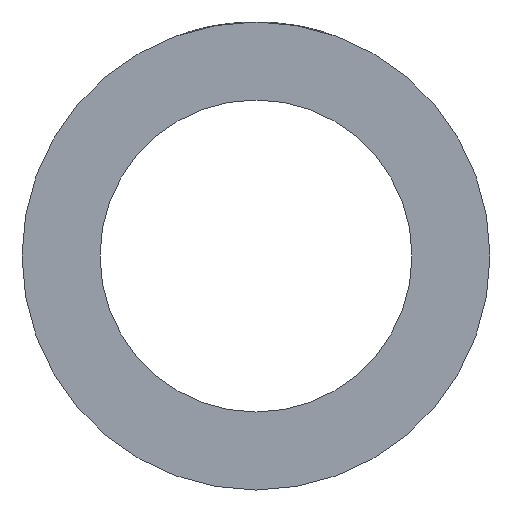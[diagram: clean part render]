
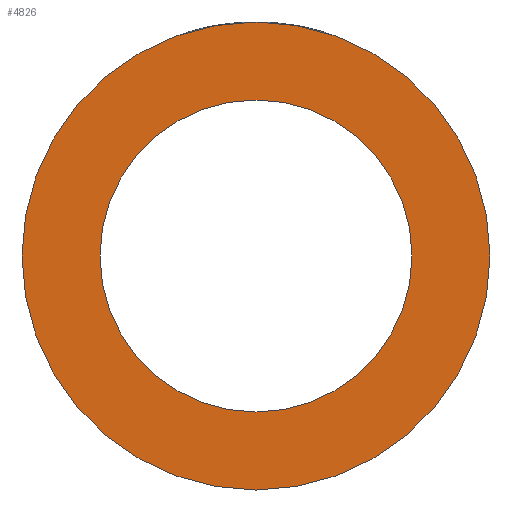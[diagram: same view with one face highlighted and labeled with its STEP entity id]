
A CAD part, left-side view. The second image highlights one B-rep face of the part: STEP entity #4826.
In plain terms, the highlighted planar face has unit normal (-1, 0, 0).
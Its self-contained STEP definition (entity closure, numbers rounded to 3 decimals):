
#114=PLANE('',#5202);
#330=CIRCLE('',#5201,45.);
#331=CIRCLE('',#5203,30.);
#1425=ORIENTED_EDGE('',*,*,#2875,.T.);
#1426=ORIENTED_EDGE('',*,*,#2874,.F.);
#2874=EDGE_CURVE('',#3599,#3599,#330,.T.);
#2875=EDGE_CURVE('',#3600,#3600,#331,.T.);
#3599=VERTEX_POINT('',#7738);
#3600=VERTEX_POINT('',#7741);
#4095=EDGE_LOOP('',(#1425));
#4096=EDGE_LOOP('',(#1426));
#4454=FACE_BOUND('',#4095,.T.);
#4455=FACE_BOUND('',#4096,.T.);
#4826=ADVANCED_FACE('',(#4454,#4455),#114,.F.);
#5201=AXIS2_PLACEMENT_3D('',#7737,#5690,#5691);
#5202=AXIS2_PLACEMENT_3D('',#7739,#5692,#5693);
#5203=AXIS2_PLACEMENT_3D('',#7740,#5694,#5695);
#5690=DIRECTION('',(1.,0.,0.));
#5691=DIRECTION('',(0.,0.,-1.));
#5692=DIRECTION('',(1.,0.,0.));
#5693=DIRECTION('',(0.,0.,-1.));
#5694=DIRECTION('',(1.,0.,0.));
#5695=DIRECTION('',(0.,0.,-1.));
#7737=CARTESIAN_POINT('',(-55.,0.,0.));
#7738=CARTESIAN_POINT('',(-55.,0.,-45.));
#7739=CARTESIAN_POINT('',(-55.,0.,0.));
#7740=CARTESIAN_POINT('',(-55.,0.,0.));
#7741=CARTESIAN_POINT('',(-55.,0.,-30.));
